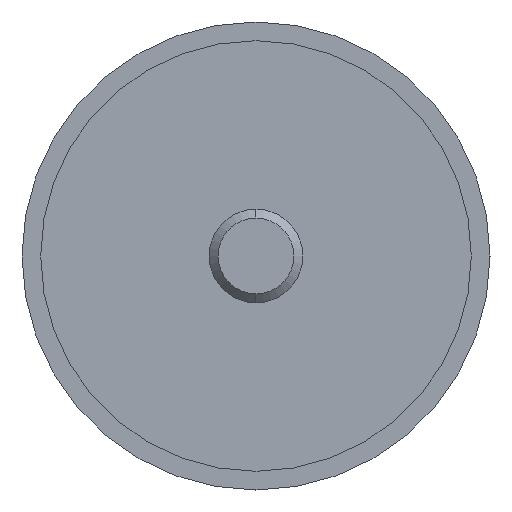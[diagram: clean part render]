
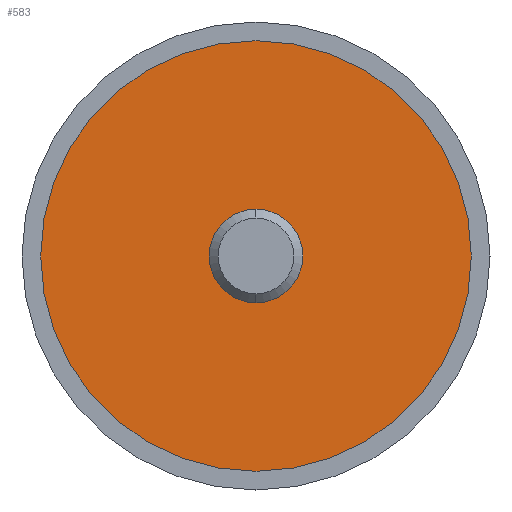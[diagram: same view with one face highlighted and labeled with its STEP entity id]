
A CAD part, left-side view. The second image highlights one B-rep face of the part: STEP entity #583.
In plain terms, the highlighted planar face has unit normal (-1, 0, 0).
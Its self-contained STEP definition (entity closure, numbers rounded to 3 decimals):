
#10 = DIRECTION ( 'NONE',  ( 0., 0., 1. ) ) ;
#21 = CIRCLE ( 'NONE', #168, 5. ) ;
#53 = VERTEX_POINT ( 'NONE', #593 ) ;
#86 = CARTESIAN_POINT ( 'NONE',  ( -22.49, 0., 0. ) ) ;
#107 = DIRECTION ( 'NONE',  ( -1., 0., 0. ) ) ;
#112 = CIRCLE ( 'NONE', #498, 5. ) ;
#115 = EDGE_CURVE ( 'NONE', #209, #172, #596, .T. ) ;
#126 = AXIS2_PLACEMENT_3D ( 'NONE', #487, #310, #632 ) ;
#164 = EDGE_CURVE ( 'NONE', #53, #194, #112, .T. ) ;
#168 = AXIS2_PLACEMENT_3D ( 'NONE', #477, #537, #480 ) ;
#172 = VERTEX_POINT ( 'NONE', #608 ) ;
#194 = VERTEX_POINT ( 'NONE', #648 ) ;
#202 = EDGE_LOOP ( 'NONE', ( #329, #312 ) ) ;
#209 = VERTEX_POINT ( 'NONE', #573 ) ;
#219 = PLANE ( 'NONE',  #126 ) ;
#268 = FACE_OUTER_BOUND ( 'NONE', #202, .T. ) ;
#310 = DIRECTION ( 'NONE',  ( 1., 0., 0. ) ) ;
#312 = ORIENTED_EDGE ( 'NONE', *, *, #115, .T. ) ;
#315 = ORIENTED_EDGE ( 'NONE', *, *, #344, .F. ) ;
#320 = AXIS2_PLACEMENT_3D ( 'NONE', #86, #444, #446 ) ;
#329 = ORIENTED_EDGE ( 'NONE', *, *, #618, .T. ) ;
#344 = EDGE_CURVE ( 'NONE', #194, #53, #21, .T. ) ;
#364 = ORIENTED_EDGE ( 'NONE', *, *, #164, .F. ) ;
#377 = CARTESIAN_POINT ( 'NONE',  ( -22.49, 0., 0. ) ) ;
#386 = CIRCLE ( 'NONE', #598, 23. ) ;
#444 = DIRECTION ( 'NONE',  ( -1., 0., 0. ) ) ;
#446 = DIRECTION ( 'NONE',  ( 0., 0., 1. ) ) ;
#477 = CARTESIAN_POINT ( 'NONE',  ( -22.49, 0., 0. ) ) ;
#480 = DIRECTION ( 'NONE',  ( 0., 0., -1. ) ) ;
#487 = CARTESIAN_POINT ( 'NONE',  ( -22.49, 23., 0. ) ) ;
#498 = AXIS2_PLACEMENT_3D ( 'NONE', #606, #558, #507 ) ;
#507 = DIRECTION ( 'NONE',  ( 0., 0., -1. ) ) ;
#537 = DIRECTION ( 'NONE',  ( -1., 0., 0. ) ) ;
#538 = EDGE_LOOP ( 'NONE', ( #364, #315 ) ) ;
#558 = DIRECTION ( 'NONE',  ( -1., 0., 0. ) ) ;
#573 = CARTESIAN_POINT ( 'NONE',  ( -22.49, 0., -23. ) ) ;
#581 = FACE_BOUND ( 'NONE', #538, .T. ) ;
#583 = ADVANCED_FACE ( 'NONE', ( #268, #581 ), #219, .F. ) ;
#593 = CARTESIAN_POINT ( 'NONE',  ( -22.49, 0., 5. ) ) ;
#596 = CIRCLE ( 'NONE', #320, 23. ) ;
#598 = AXIS2_PLACEMENT_3D ( 'NONE', #377, #107, #10 ) ;
#606 = CARTESIAN_POINT ( 'NONE',  ( -22.49, 0., 0. ) ) ;
#608 = CARTESIAN_POINT ( 'NONE',  ( -22.49, 0., 23. ) ) ;
#618 = EDGE_CURVE ( 'NONE', #172, #209, #386, .T. ) ;
#632 = DIRECTION ( 'NONE',  ( 0., 0., -1. ) ) ;
#648 = CARTESIAN_POINT ( 'NONE',  ( -22.49, 0., -5. ) ) ;
